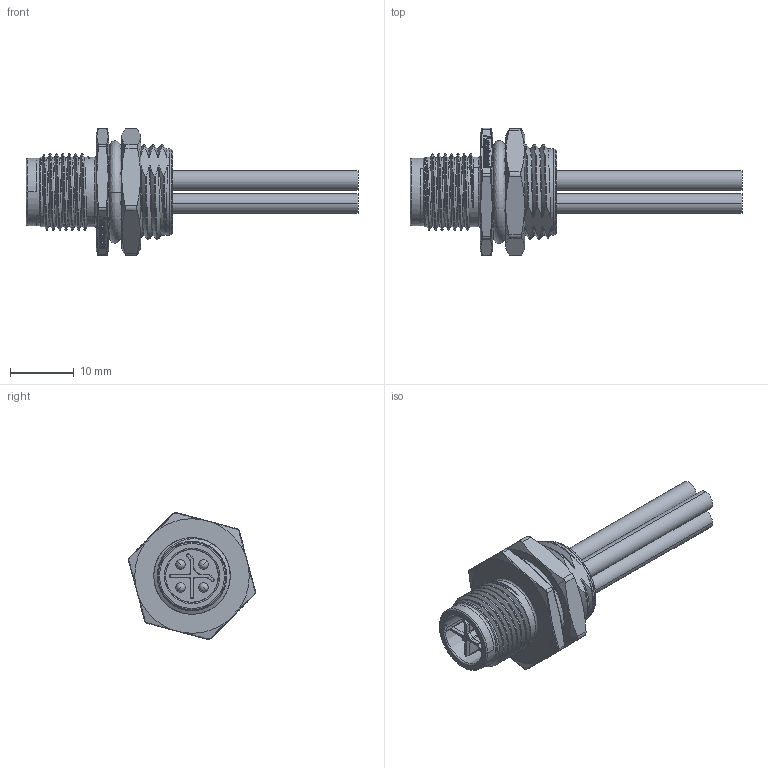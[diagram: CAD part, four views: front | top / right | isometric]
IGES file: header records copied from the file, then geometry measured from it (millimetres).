
Start section:  PTC IGES file: M12S-04PMMS-SH8BXX.igs
Global section: file name: M12S-04PMMS-SH8BXX.igs; native system: Creo Parametric by Parametric Technology Corporation; preprocessor: 2013050; author: ks6143; organization: Unknown; date: 20150819.201925; units: millimetre
Bounding box: 52.11 x 19.98 x 19.94 mm (x, y, z)
Volume: 3812.3 mm3; surface area: 5464.4 mm2
Topology: 1 solids, 1 shells, 610 faces, 1661 edges, 1082 vertices
Faces by surface type: bspline 367, revolution 163, extrusion 80
